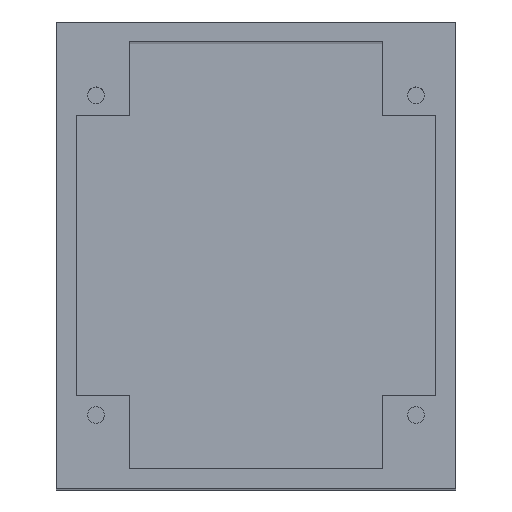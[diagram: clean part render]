
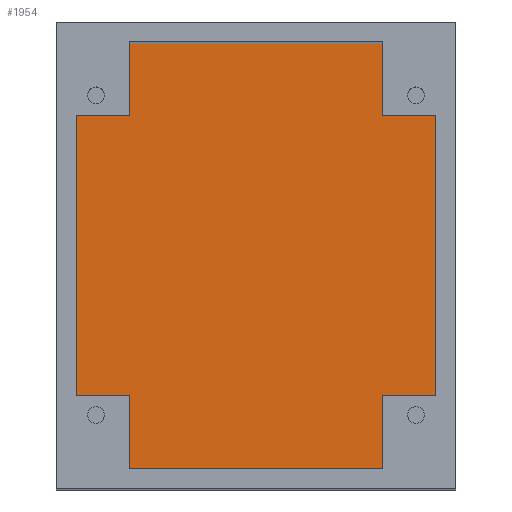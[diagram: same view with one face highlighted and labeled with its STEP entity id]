
A CAD part, top view. The second image highlights one B-rep face of the part: STEP entity #1954.
In plain terms, the highlighted planar face has unit normal (0, 0, 1).
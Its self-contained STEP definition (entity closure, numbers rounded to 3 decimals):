
#388 = PLANE('',#389);
#389 = AXIS2_PLACEMENT_3D('',#390,#391,#392);
#390 = CARTESIAN_POINT('',(-27.,32.,3.));
#391 = DIRECTION('',(0.,1.,0.));
#392 = DIRECTION('',(0.,0.,1.));
#472 = PLANE('',#473);
#473 = AXIS2_PLACEMENT_3D('',#474,#475,#476);
#474 = CARTESIAN_POINT('',(27.,-32.,3.));
#475 = DIRECTION('',(1.,0.,0.));
#476 = DIRECTION('',(0.,0.,1.));
#556 = PLANE('',#557);
#557 = AXIS2_PLACEMENT_3D('',#558,#559,#560);
#558 = CARTESIAN_POINT('',(-27.,-32.,3.));
#559 = DIRECTION('',(0.,1.,0.));
#560 = DIRECTION('',(0.,0.,1.));
#640 = PLANE('',#641);
#641 = AXIS2_PLACEMENT_3D('',#642,#643,#644);
#642 = CARTESIAN_POINT('',(-27.,-32.,3.));
#643 = DIRECTION('',(1.,0.,0.));
#644 = DIRECTION('',(0.,0.,1.));
#993 = VERTEX_POINT('',#994);
#994 = CARTESIAN_POINT('',(27.,32.,3.));
#1017 = EDGE_CURVE('',#1018,#993,#1020,.T.);
#1018 = VERTEX_POINT('',#1019);
#1019 = CARTESIAN_POINT('',(-27.,32.,3.));
#1020 = SURFACE_CURVE('',#1021,(#1025,#1032),.PCURVE_S1.);
#1021 = LINE('',#1022,#1023);
#1022 = CARTESIAN_POINT('',(-27.,32.,3.));
#1023 = VECTOR('',#1024,1.);
#1024 = DIRECTION('',(1.,0.,0.));
#1025 = PCURVE('',#388,#1026);
#1026 = DEFINITIONAL_REPRESENTATION('',(#1027),#1031);
#1027 = LINE('',#1028,#1029);
#1028 = CARTESIAN_POINT('',(0.,0.));
#1029 = VECTOR('',#1030,1.);
#1030 = DIRECTION('',(0.,1.));
#1031 = ( GEOMETRIC_REPRESENTATION_CONTEXT(2) 
PARAMETRIC_REPRESENTATION_CONTEXT() REPRESENTATION_CONTEXT('2D SPACE',''
  ) );
#1032 = PCURVE('',#1033,#1038);
#1033 = PLANE('',#1034);
#1034 = AXIS2_PLACEMENT_3D('',#1035,#1036,#1037);
#1035 = CARTESIAN_POINT('',(-27.,-32.,3.));
#1036 = DIRECTION('',(0.,0.,1.));
#1037 = DIRECTION('',(1.,0.,0.));
#1038 = DEFINITIONAL_REPRESENTATION('',(#1039),#1043);
#1039 = LINE('',#1040,#1041);
#1040 = CARTESIAN_POINT('',(0.,64.));
#1041 = VECTOR('',#1042,1.);
#1042 = DIRECTION('',(1.,0.));
#1043 = ( GEOMETRIC_REPRESENTATION_CONTEXT(2) 
PARAMETRIC_REPRESENTATION_CONTEXT() REPRESENTATION_CONTEXT('2D SPACE',''
  ) );
#1367 = VERTEX_POINT('',#1368);
#1368 = CARTESIAN_POINT('',(27.,-32.,3.));
#1391 = EDGE_CURVE('',#1367,#993,#1392,.T.);
#1392 = SURFACE_CURVE('',#1393,(#1397,#1404),.PCURVE_S1.);
#1393 = LINE('',#1394,#1395);
#1394 = CARTESIAN_POINT('',(27.,-32.,3.));
#1395 = VECTOR('',#1396,1.);
#1396 = DIRECTION('',(0.,1.,0.));
#1397 = PCURVE('',#472,#1398);
#1398 = DEFINITIONAL_REPRESENTATION('',(#1399),#1403);
#1399 = LINE('',#1400,#1401);
#1400 = CARTESIAN_POINT('',(0.,0.));
#1401 = VECTOR('',#1402,1.);
#1402 = DIRECTION('',(0.,-1.));
#1403 = ( GEOMETRIC_REPRESENTATION_CONTEXT(2) 
PARAMETRIC_REPRESENTATION_CONTEXT() REPRESENTATION_CONTEXT('2D SPACE',''
  ) );
#1404 = PCURVE('',#1033,#1405);
#1405 = DEFINITIONAL_REPRESENTATION('',(#1406),#1410);
#1406 = LINE('',#1407,#1408);
#1407 = CARTESIAN_POINT('',(54.,0.));
#1408 = VECTOR('',#1409,1.);
#1409 = DIRECTION('',(0.,1.));
#1410 = ( GEOMETRIC_REPRESENTATION_CONTEXT(2) 
PARAMETRIC_REPRESENTATION_CONTEXT() REPRESENTATION_CONTEXT('2D SPACE',''
  ) );
#1489 = VERTEX_POINT('',#1490);
#1490 = CARTESIAN_POINT('',(-27.,-32.,3.));
#1513 = EDGE_CURVE('',#1489,#1018,#1514,.T.);
#1514 = SURFACE_CURVE('',#1515,(#1519,#1526),.PCURVE_S1.);
#1515 = LINE('',#1516,#1517);
#1516 = CARTESIAN_POINT('',(-27.,-32.,3.));
#1517 = VECTOR('',#1518,1.);
#1518 = DIRECTION('',(0.,1.,0.));
#1519 = PCURVE('',#640,#1520);
#1520 = DEFINITIONAL_REPRESENTATION('',(#1521),#1525);
#1521 = LINE('',#1522,#1523);
#1522 = CARTESIAN_POINT('',(0.,0.));
#1523 = VECTOR('',#1524,1.);
#1524 = DIRECTION('',(0.,-1.));
#1525 = ( GEOMETRIC_REPRESENTATION_CONTEXT(2) 
PARAMETRIC_REPRESENTATION_CONTEXT() REPRESENTATION_CONTEXT('2D SPACE',''
  ) );
#1526 = PCURVE('',#1033,#1527);
#1527 = DEFINITIONAL_REPRESENTATION('',(#1528),#1532);
#1528 = LINE('',#1529,#1530);
#1529 = CARTESIAN_POINT('',(0.,0.));
#1530 = VECTOR('',#1531,1.);
#1531 = DIRECTION('',(0.,1.));
#1532 = ( GEOMETRIC_REPRESENTATION_CONTEXT(2) 
PARAMETRIC_REPRESENTATION_CONTEXT() REPRESENTATION_CONTEXT('2D SPACE',''
  ) );
#1807 = EDGE_CURVE('',#1489,#1367,#1808,.T.);
#1808 = SURFACE_CURVE('',#1809,(#1813,#1820),.PCURVE_S1.);
#1809 = LINE('',#1810,#1811);
#1810 = CARTESIAN_POINT('',(-27.,-32.,3.));
#1811 = VECTOR('',#1812,1.);
#1812 = DIRECTION('',(1.,0.,0.));
#1813 = PCURVE('',#556,#1814);
#1814 = DEFINITIONAL_REPRESENTATION('',(#1815),#1819);
#1815 = LINE('',#1816,#1817);
#1816 = CARTESIAN_POINT('',(0.,0.));
#1817 = VECTOR('',#1818,1.);
#1818 = DIRECTION('',(0.,1.));
#1819 = ( GEOMETRIC_REPRESENTATION_CONTEXT(2) 
PARAMETRIC_REPRESENTATION_CONTEXT() REPRESENTATION_CONTEXT('2D SPACE',''
  ) );
#1820 = PCURVE('',#1033,#1821);
#1821 = DEFINITIONAL_REPRESENTATION('',(#1822),#1826);
#1822 = LINE('',#1823,#1824);
#1823 = CARTESIAN_POINT('',(0.,0.));
#1824 = VECTOR('',#1825,1.);
#1825 = DIRECTION('',(1.,0.));
#1826 = ( GEOMETRIC_REPRESENTATION_CONTEXT(2) 
PARAMETRIC_REPRESENTATION_CONTEXT() REPRESENTATION_CONTEXT('2D SPACE',''
  ) );
#1954 = ADVANCED_FACE('',(#1955),#1033,.T.);
#1955 = FACE_BOUND('',#1956,.T.);
#1956 = EDGE_LOOP('',(#1957,#1958,#1959,#1960));
#1957 = ORIENTED_EDGE('',*,*,#1513,.F.);
#1958 = ORIENTED_EDGE('',*,*,#1807,.T.);
#1959 = ORIENTED_EDGE('',*,*,#1391,.T.);
#1960 = ORIENTED_EDGE('',*,*,#1017,.F.);
